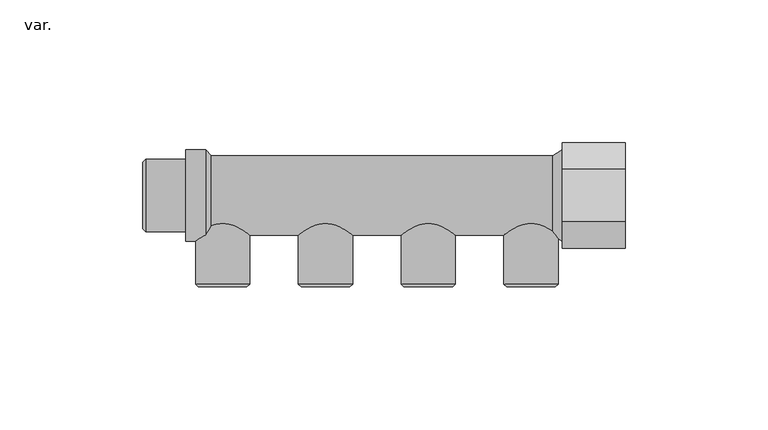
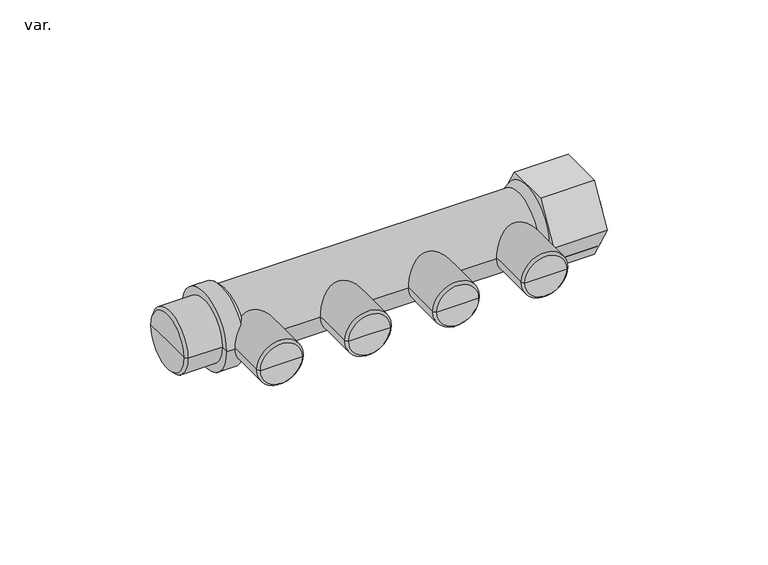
"""IFC4 building model written with IfcOpenShell, lengths in millimetres: pipe fitting geometry, AmancoWavin_ConexõesdeTubos_PEXMódulodeDistribuiçãoMetálico3_4x1_2 : var.."""

import ifcopenshell
import ifcopenshell.guid

model = None  # the IFC model being written
_history = None  # IfcOwnerHistory: only IFC2X3 demands one
_inside = {}  # id of a spatial element -> (the spatial element, [elements in it])
_under = {}  # id of a project, library or spatial element -> (it, [spatial elements below it])
_declared = {}  # id of a project -> (the project, [libraries it declares])
_typed = {}  # id of a type object -> (the type object, [elements of that type])
_made_of = {}  # id of a material, layer set ... -> (it, [elements and type objects made of it])


def new_model(schema):
    """Start an empty IFC model of exactly this schema.

    Asked for "IFC4X3", IfcOpenShell would pick the latest addendum, in which some entities
    have other attributes; the version numbers below select the first issue.
    IFC2X3 requires an IfcOwnerHistory on every rooted entity: one is made here for all.
    """
    global model, _history
    if schema == "IFC4X3":
        model = ifcopenshell.file(schema_version=(4, 3, 0, 0))
    else:
        model = ifcopenshell.file(schema=schema)
    _inside.clear()
    _under.clear()
    _declared.clear()
    _typed.clear()
    _made_of.clear()
    _history = None
    if model.schema == "IFC2X3":
        org = make("IfcOrganization", Name="unknown")
        user = make(
            "IfcPersonAndOrganization",
            ThePerson=make("IfcPerson", FamilyName="unknown"),
            TheOrganization=org,
        )
        app = make(
            "IfcApplication",
            ApplicationDeveloper=org,
            Version="unknown",
            ApplicationFullName="unknown",
            ApplicationIdentifier="unknown",
        )
        _history = make(
            "IfcOwnerHistory",
            OwningUser=user,
            OwningApplication=app,
            ChangeAction="ADDED",
            CreationDate=0,
        )
    return model


def make(cls, **values):
    """One entity of the class cls with the attributes given. An attribute that is None is left unset."""
    return model.create_entity(
        cls, **{name: value for name, value in values.items() if value is not None}
    )


def rooted(cls, **values):
    """An entity with a GlobalId (a new one), such as an element, a storey or a relation."""
    return make(cls, GlobalId=ifcopenshell.guid.new(), OwnerHistory=_history, **values)


def si_unit(unit_type, name, prefix=None):
    """IfcSIUnit, for example si_unit("LENGTHUNIT", "METRE", prefix="MILLI")."""
    return make("IfcSIUnit", UnitType=unit_type, Prefix=prefix, Name=name)


def assignment(units):
    """IfcUnitAssignment: the units of a project."""
    return None if units is None else make("IfcUnitAssignment", Units=units)


def point(xyz):
    """IfcCartesianPoint."""
    return None if xyz is None else make("IfcCartesianPoint", Coordinates=xyz)


def direction(xyz):
    """IfcDirection."""
    return None if xyz is None else make("IfcDirection", DirectionRatios=xyz)


def frame(location, z_axis=None, x_axis=None):
    """IfcAxis2Placement3D, a coordinate frame: its origin and axes. An axis left out is left unset."""
    return make(
        "IfcAxis2Placement3D",
        Location=point(location),
        Axis=direction(z_axis),
        RefDirection=direction(x_axis),
    )


def frame_2d(location, x_axis=None):
    """IfcAxis2Placement2D, a coordinate frame in the plane: its origin and x axis."""
    return make(
        "IfcAxis2Placement2D", Location=point(location), RefDirection=direction(x_axis)
    )


def origin():
    """The frame at (0, 0, 0) with its axes left unset."""
    return frame((0.0, 0.0, 0.0))


def origin_2d():
    """The frame at (0, 0) in the plane with its x axis left unset."""
    return frame_2d((0.0, 0.0))


def place(relative_to, where):
    """IfcLocalPlacement: puts the frame where relative to a parent placement (None: the world)."""
    return make(
        "IfcLocalPlacement", PlacementRelTo=relative_to, RelativePlacement=where
    )


def context(
    kind, dimensions, precision=None, world=None, true_north=None, identifier=None
):
    """IfcGeometricRepresentationContext, for example the 3D "Model" context."""
    return make(
        "IfcGeometricRepresentationContext",
        ContextIdentifier=identifier,
        ContextType=kind,
        CoordinateSpaceDimension=dimensions,
        Precision=precision,
        WorldCoordinateSystem=world,
        TrueNorth=true_north,
    )


def project(units=None, contexts=None):
    """IfcProject with its units and contexts."""
    return rooted(
        "IfcProject",
        Name="project",
        RepresentationContexts=contexts,
        UnitsInContext=assignment(units),
    )


def spatial(cls, under=None, at=None, **own):
    """A site, building, storey or space (cls), placed at a placement, below another one or the project."""
    s = rooted(cls, ObjectPlacement=at, **own)
    if under is not None:
        _under.setdefault(under.id(), (under, []))[1].append(s)
    return s


def polyline(points):
    """IfcPolyline through the points."""
    return make("IfcPolyline", Points=[point(p) for p in points])


def circle_curve(where, radius):
    """IfcCircle in the frame where."""
    return make("IfcCircle", Position=where, Radius=radius)


def trimmed(basis, trim1, trim2, sense, master):
    """IfcTrimmedCurve: the piece of a basis curve between two trims."""
    return make(
        "IfcTrimmedCurve",
        BasisCurve=basis,
        Trim1=trim1,
        Trim2=trim2,
        SenseAgreement=sense,
        MasterRepresentation=master,
    )


def segment(curve, same_sense, transition):
    """IfcCompositeCurveSegment."""
    return make(
        "IfcCompositeCurveSegment",
        Transition=transition,
        SameSense=same_sense,
        ParentCurve=curve,
    )


def composite_curve(segments, self_intersect=None):
    """IfcCompositeCurve: segments joined end to end."""
    return make("IfcCompositeCurve", Segments=segments, SelfIntersect=self_intersect)


def outline(outer, holes=None, kind="AREA"):
    """IfcArbitraryClosedProfileDef: a profile drawn as a closed curve; with holes, ...WithVoids."""
    if holes is None:
        return make("IfcArbitraryClosedProfileDef", ProfileType=kind, OuterCurve=outer)
    return make(
        "IfcArbitraryProfileDefWithVoids",
        ProfileType=kind,
        OuterCurve=outer,
        InnerCurves=holes,
    )


def extrude(swept, where, along, depth):
    """IfcExtrudedAreaSolid: the profile swept, set in the frame where, extruded along a direction by depth."""
    return make(
        "IfcExtrudedAreaSolid",
        SweptArea=swept,
        Position=where,
        ExtrudedDirection=direction(along),
        Depth=depth,
    )


def shape(context_of_items, identifier, shape_type, items):
    """IfcShapeRepresentation: the items that make up one representation, for example the "Body"."""
    return make(
        "IfcShapeRepresentation",
        ContextOfItems=context_of_items,
        RepresentationIdentifier=identifier,
        RepresentationType=shape_type,
        Items=items,
    )


def source(mapping_origin, context_of_items, identifier, shape_type, items):
    """IfcRepresentationMap: a shape defined once, which mapped items show again and again."""
    return make(
        "IfcRepresentationMap",
        MappingOrigin=mapping_origin,
        MappedRepresentation=shape(context_of_items, identifier, shape_type, items),
    )


def transform(
    local_origin,
    x_axis=None,
    y_axis=None,
    z_axis=None,
    scale=None,
    scale2=None,
    scale3=None,
    uniform=True,
):
    """IfcCartesianTransformationOperator3D, or its non-uniform kind. x_axis, y_axis, z_axis: its Axis1, 2, 3."""
    if uniform:
        return make(
            "IfcCartesianTransformationOperator3D",
            Axis1=direction(x_axis),
            Axis2=direction(y_axis),
            LocalOrigin=point(local_origin),
            Scale=scale,
            Axis3=direction(z_axis),
        )
    return make(
        "IfcCartesianTransformationOperator3DnonUniform",
        Axis1=direction(x_axis),
        Axis2=direction(y_axis),
        LocalOrigin=point(local_origin),
        Scale=scale,
        Axis3=direction(z_axis),
        Scale2=scale2,
        Scale3=scale3,
    )


def mapped(mapping_source, mapping_target):
    """IfcMappedItem: shows the shape of a source again, moved by a transform."""
    return make(
        "IfcMappedItem", MappingSource=mapping_source, MappingTarget=mapping_target
    )


def made_of(thing, what):
    """Note that an element or type object is made of a material, layer set ...; save() writes the relation."""
    if what is not None:
        _made_of.setdefault(what.id(), (what, []))[1].append(thing)
    return thing


def element(
    cls,
    number,
    at=None,
    inside=None,
    cuts=None,
    type_object=None,
    material=None,
    context=None,
    identifier="Body",
    shape_type=None,
    held_by="IfcProductDefinitionShape",
    body=None,
    shapes=None,
    **own,
):
    """One element of the class cls, such as IfcWall. Its Tag is "e" and its number.

    at: its placement. inside: the storey or other place that contains it. cuts: it is an
    opening in that element (IfcRelVoidsElement). A single representation is given by context,
    identifier, shape_type and body (its items); several are given by shapes. held_by: the class
    of the entity that holds the representations. save() writes the other relations.
    """
    e = rooted(cls, Tag="e%d" % number, ObjectPlacement=at, **own)
    if body is not None:
        shapes = [shape(context, identifier, shape_type, body)]
    if shapes is not None:
        e.Representation = make(held_by, Representations=shapes)
    if inside is not None:
        _inside.setdefault(inside.id(), (inside, []))[1].append(e)
    if cuts is not None:
        rooted(
            "IfcRelVoidsElement", RelatingBuildingElement=cuts, RelatedOpeningElement=e
        )
    if type_object is not None:
        _typed.setdefault(type_object.id(), (type_object, []))[1].append(e)
    return made_of(e, material)


def aggregate(whole, parts):
    """IfcRelAggregates: a whole, such as a stair, and the parts it consists of."""
    return rooted("IfcRelAggregates", RelatingObject=whole, RelatedObjects=parts)


def save(model, path):
    """Write the relations noted so far, then the file.

    IfcRelAggregates (storeys below a building ...), IfcRelContainedInSpatialStructure (elements
    in a storey), IfcRelDefinesByType, IfcRelAssociatesMaterial and IfcRelDeclares: one each for
    every whole, place, type object, material and project.
    """
    for whole, parts in _under.values():
        aggregate(whole, parts)
    for where, things in _inside.values():
        rooted(
            "IfcRelContainedInSpatialStructure",
            RelatedElements=things,
            RelatingStructure=where,
        )
    for kind, things in _typed.values():
        rooted("IfcRelDefinesByType", RelatedObjects=things, RelatingType=kind)
    for what, things in _made_of.values():
        rooted("IfcRelAssociatesMaterial", RelatedObjects=things, RelatingMaterial=what)
    for by, libraries in _declared.values():
        rooted("IfcRelDeclares", RelatingContext=by, RelatedDefinitions=libraries)
    model.write(path)


def plane_surface(at):
    """IfcPlane: the flat surface through the origin of the frame at, square to its z axis."""
    return make("IfcPlane", Position=at)


def cylinder_surface(at, radius):
    """IfcCylindricalSurface: all points at the distance radius from the z axis of the frame at."""
    return make("IfcCylindricalSurface", Position=at, Radius=radius)


def revolved_surface(curve, axis_point, axis_direction):
    """IfcSurfaceOfRevolution: the curve turned about the line through axis_point along axis_direction."""
    return make(
        "IfcSurfaceOfRevolution",
        SweptCurve=make("IfcArbitraryOpenProfileDef", ProfileType="CURVE", Curve=curve),
        AxisPosition=make("IfcAxis1Placement", Location=point(axis_point), Axis=direction(axis_direction)),
    )


def advanced_brep(points, edges, surfaces, faces):
    """IfcAdvancedBrep: a solid bounded by faces that lie on surfaces and meet in shared edges.

    An edge is (start, end): straight between two places in points (the first is 0);
    or (start, end, curve); or (start, end, curve, False) where it runs against its curve.
    A face is (place in surfaces, loops), or (place, loops, False) where it looks against
    its surface's normal. A loop lists edges by number (the first is 1), with a minus sign
    where the edge is run from its end to its start. The first loop is the outer one.
    """
    corners = [point(p) for p in points]
    vertices = [make("IfcVertexPoint", VertexGeometry=c) for c in corners]
    made = []
    for start, end, *more in edges:
        made.append(
            make(
                "IfcEdgeCurve",
                EdgeStart=vertices[start],
                EdgeEnd=vertices[end],
                EdgeGeometry=more[0] if more else make("IfcPolyline", Points=[corners[start], corners[end]]),
                SameSense=more[1] if len(more) > 1 else True,
            )
        )
    hull = []
    for where, loops, *sense in faces:
        bounds = []
        for j, loop in enumerate(loops):
            ring = [make("IfcOrientedEdge", EdgeElement=made[abs(k) - 1], Orientation=k > 0) for k in loop]
            bounds.append(
                make(
                    "IfcFaceOuterBound" if j == 0 else "IfcFaceBound",
                    Bound=make("IfcEdgeLoop", EdgeList=ring),
                    Orientation=True,
                )
            )
        hull.append(make("IfcAdvancedFace", Bounds=bounds, FaceSurface=surfaces[where], SameSense=sense[0] if sense else True))
    return make("IfcAdvancedBrep", Outer=make("IfcClosedShell", CfsFaces=hull))


def var_4ca37701(model_context):
    return source(origin(), model_context, "Body", "SolidModel", [
        advanced_brep(
        [(127.5, -32.0, 0.0), (144.5, -32.0, 0.0), (136.0, -32.0, 0.0), (126.5, -31.0, 0.0), (145.5, -31.0, 0.0), (126.5, 0.0, 0.0), (145.5, 0.0, 0.0), (136.0, 0.0, 0.0)],
        [
            (0, 1, circle_curve(frame((136.0, -32.0, 0.0), z_axis=(0.0, -1.0, 0.0), x_axis=(1.0, 0.0, 0.0)), 8.5)),
            (1, 2),
            (2, 0),
            (1, 0, circle_curve(frame((136.0, -32.0, 0.0), z_axis=(0.0, -1.0, 0.0), x_axis=(1.0, 0.0, 0.0)), 8.5)),
            (3, 4, circle_curve(frame((136.0, -31.0, 0.0), z_axis=(0.0, -1.0, 0.0), x_axis=(1.0, 0.0, 0.0)), 9.5)),
            (4, 1),
            (0, 3),
            (4, 3, circle_curve(frame((136.0, -31.0, 0.0), z_axis=(0.0, -1.0, 0.0), x_axis=(1.0, 0.0, 0.0)), 9.5)),
            (5, 6, circle_curve(frame((136.0, 0.0, 0.0), z_axis=(0.0, -1.0, 0.0), x_axis=(1.0, 0.0, 0.0)), 9.5)),
            (6, 4),
            (3, 5),
            (6, 5, circle_curve(frame((136.0, 0.0, 0.0), z_axis=(0.0, -1.0, 0.0), x_axis=(1.0, 0.0, 0.0)), 9.5)),
            (7, 6),
            (5, 7),
        ],
        [
            plane_surface(frame((136.0, -32.0, 0.0), z_axis=(0.0, -1.0, 0.0), x_axis=(1.0, 0.0, 0.0))),
            revolved_surface(polyline([(144.5, -32.0, 0.0), (145.5, -31.0, 0.0)]), (136.0, 0.0, 0.0), (0.0, 1.0, 0.0)),
            cylinder_surface(frame((136.0, 0.0, 0.0), z_axis=(0.0, 1.0, 0.0), x_axis=(1.0, 0.0, 0.0)), 9.5),
            plane_surface(frame((136.0, 0.0, 0.0), z_axis=(0.0, 1.0, 0.0), x_axis=(1.0, 0.0, 0.0))),
        ],
        [
            (0, [[1, 2, 3]]),
            (0, [[4, -3, -2]]),
            (1, [[5, 6, -1, 7]]),
            (1, [[8, -7, -4, -6]]),
            (2, [[9, 10, -5, 11]]),
            (2, [[12, -11, -8, -10]]),
            (3, [[13, -9, 14]]),
            (3, [[-14, -12, -13]]),
        ],
    ),
        advanced_brep(
        [(91.5, -32.0, 0.0), (108.5, -32.0, 0.0), (100.0, -32.0, 0.0), (90.5, -31.0, 0.0), (109.5, -31.0, 0.0), (90.5, 0.0, 0.0), (109.5, 0.0, 0.0), (100.0, 0.0, 0.0)],
        [
            (0, 1, circle_curve(frame((100.0, -32.0, 0.0), z_axis=(0.0, -1.0, 0.0), x_axis=(1.0, 0.0, 0.0)), 8.5)),
            (1, 2),
            (2, 0),
            (1, 0, circle_curve(frame((100.0, -32.0, 0.0), z_axis=(0.0, -1.0, 0.0), x_axis=(1.0, 0.0, 0.0)), 8.5)),
            (3, 4, circle_curve(frame((100.0, -31.0, 0.0), z_axis=(0.0, -1.0, 0.0), x_axis=(1.0, 0.0, 0.0)), 9.5)),
            (4, 1),
            (0, 3),
            (4, 3, circle_curve(frame((100.0, -31.0, 0.0), z_axis=(0.0, -1.0, 0.0), x_axis=(1.0, 0.0, 0.0)), 9.5)),
            (5, 6, circle_curve(frame((100.0, 0.0, 0.0), z_axis=(0.0, -1.0, 0.0), x_axis=(1.0, 0.0, 0.0)), 9.5)),
            (6, 4),
            (3, 5),
            (6, 5, circle_curve(frame((100.0, 0.0, 0.0), z_axis=(0.0, -1.0, 0.0), x_axis=(1.0, 0.0, 0.0)), 9.5)),
            (7, 6),
            (5, 7),
        ],
        [
            plane_surface(frame((100.0, -32.0, 0.0), z_axis=(0.0, -1.0, 0.0), x_axis=(1.0, 0.0, 0.0))),
            revolved_surface(polyline([(108.5, -32.0, 0.0), (109.5, -31.0, 0.0)]), (100.0, 0.0, 0.0), (0.0, 1.0, 0.0)),
            cylinder_surface(frame((100.0, 0.0, 0.0), z_axis=(0.0, 1.0, 0.0), x_axis=(1.0, 0.0, 0.0)), 9.5),
            plane_surface(frame((100.0, 0.0, 0.0), z_axis=(0.0, 1.0, 0.0), x_axis=(1.0, 0.0, 0.0))),
        ],
        [
            (0, [[1, 2, 3]]),
            (0, [[4, -3, -2]]),
            (1, [[5, 6, -1, 7]]),
            (1, [[8, -7, -4, -6]]),
            (2, [[9, 10, -5, 11]]),
            (2, [[12, -11, -8, -10]]),
            (3, [[13, -9, 14]]),
            (3, [[-14, -12, -13]]),
        ],
    ),
        advanced_brep(
        [(55.5, -32.0, 0.0), (72.5, -32.0, 0.0), (64.0, -32.0, 0.0), (54.5, -31.0, 0.0), (73.5, -31.0, 0.0), (54.5, 0.0, 0.0), (73.5, 0.0, 0.0), (64.0, 0.0, 0.0)],
        [
            (0, 1, circle_curve(frame((64.0, -32.0, 0.0), z_axis=(0.0, -1.0, 0.0), x_axis=(1.0, 0.0, 0.0)), 8.5)),
            (1, 2),
            (2, 0),
            (1, 0, circle_curve(frame((64.0, -32.0, 0.0), z_axis=(0.0, -1.0, 0.0), x_axis=(1.0, 0.0, 0.0)), 8.5)),
            (3, 4, circle_curve(frame((64.0, -31.0, 0.0), z_axis=(0.0, -1.0, 0.0), x_axis=(1.0, 0.0, 0.0)), 9.5)),
            (4, 1),
            (0, 3),
            (4, 3, circle_curve(frame((64.0, -31.0, 0.0), z_axis=(0.0, -1.0, 0.0), x_axis=(1.0, 0.0, 0.0)), 9.5)),
            (5, 6, circle_curve(frame((64.0, 0.0, 0.0), z_axis=(0.0, -1.0, 0.0), x_axis=(1.0, 0.0, 0.0)), 9.5)),
            (6, 4),
            (3, 5),
            (6, 5, circle_curve(frame((64.0, 0.0, 0.0), z_axis=(0.0, -1.0, 0.0), x_axis=(1.0, 0.0, 0.0)), 9.5)),
            (7, 6),
            (5, 7),
        ],
        [
            plane_surface(frame((64.0, -32.0, 0.0), z_axis=(0.0, -1.0, 0.0), x_axis=(1.0, 0.0, 0.0))),
            revolved_surface(polyline([(72.5, -32.0, 0.0), (73.5, -31.0, 0.0)]), (64.0, 0.0, 0.0), (0.0, 1.0, 0.0)),
            cylinder_surface(frame((64.0, 0.0, 0.0), z_axis=(0.0, 1.0, 0.0), x_axis=(1.0, 0.0, 0.0)), 9.5),
            plane_surface(frame((64.0, 0.0, 0.0), z_axis=(0.0, 1.0, 0.0), x_axis=(1.0, 0.0, 0.0))),
        ],
        [
            (0, [[1, 2, 3]]),
            (0, [[4, -3, -2]]),
            (1, [[5, 6, -1, 7]]),
            (1, [[8, -7, -4, -6]]),
            (2, [[9, 10, -5, 11]]),
            (2, [[12, -11, -8, -10]]),
            (3, [[13, -9, 14]]),
            (3, [[-14, -12, -13]]),
        ],
    ),
        advanced_brep(
        [(19.5, -32.0, 0.0), (36.5, -32.0, 0.0), (28.0, -32.0, 0.0), (18.5, -31.0, 0.0), (37.5, -31.0, 0.0), (18.5, 0.0, 0.0), (37.5, 0.0, 0.0), (28.0, 0.0, 0.0)],
        [
            (0, 1, circle_curve(frame((28.0, -32.0, 0.0), z_axis=(0.0, -1.0, 0.0), x_axis=(1.0, 0.0, 0.0)), 8.5)),
            (1, 2),
            (2, 0),
            (1, 0, circle_curve(frame((28.0, -32.0, 0.0), z_axis=(0.0, -1.0, 0.0), x_axis=(1.0, 0.0, 0.0)), 8.5)),
            (3, 4, circle_curve(frame((28.0, -31.0, 0.0), z_axis=(0.0, -1.0, 0.0), x_axis=(1.0, 0.0, 0.0)), 9.5)),
            (4, 1),
            (0, 3),
            (4, 3, circle_curve(frame((28.0, -31.0, 0.0), z_axis=(0.0, -1.0, 0.0), x_axis=(1.0, 0.0, 0.0)), 9.5)),
            (5, 6, circle_curve(frame((28.0, 0.0, 0.0), z_axis=(0.0, -1.0, 0.0), x_axis=(1.0, 0.0, 0.0)), 9.5)),
            (6, 4),
            (3, 5),
            (6, 5, circle_curve(frame((28.0, 0.0, 0.0), z_axis=(0.0, -1.0, 0.0), x_axis=(1.0, 0.0, 0.0)), 9.5)),
            (7, 6),
            (5, 7),
        ],
        [
            plane_surface(frame((28.0, -32.0, 0.0), z_axis=(0.0, -1.0, 0.0), x_axis=(1.0, 0.0, 0.0))),
            revolved_surface(polyline([(36.5, -32.0, 0.0), (37.5, -31.0, 0.0)]), (28.0, 0.0, 0.0), (0.0, 1.0, 0.0)),
            cylinder_surface(frame((28.0, 0.0, 0.0), z_axis=(0.0, 1.0, 0.0), x_axis=(1.0, 0.0, 0.0)), 9.5),
            plane_surface(frame((28.0, 0.0, 0.0), z_axis=(0.0, 1.0, 0.0), x_axis=(1.0, 0.0, 0.0))),
        ],
        [
            (0, [[1, 2, 3]]),
            (0, [[4, -3, -2]]),
            (1, [[5, 6, -1, 7]]),
            (1, [[8, -7, -4, -6]]),
            (2, [[9, 10, -5, 11]]),
            (2, [[12, -11, -8, -10]]),
            (3, [[13, -9, 14]]),
            (3, [[-14, -12, -13]]),
        ],
    ),
        extrude(outline(polyline([(18.4752086, 0.0), (9.2376043, -16.0), (-9.2376043, -16.0), (-18.4752086, 0.0), (-9.2376043, 16.0), (9.2376043, 16.0), (18.4752086, 0.0)]), holes=[composite_curve([segment(trimmed(circle_curve(origin_2d(), 12.7), [point((12.7, 0.0))], [point((-12.7, 0.0))], True, "CARTESIAN"), True, "CONTINUOUS"), segment(trimmed(circle_curve(origin_2d(), 12.7), [point((-12.7, 0.0))], [point((12.7, 0.0))], True, "CARTESIAN"), True, "CONTINUOUS")], self_intersect=False)]), frame((147.0, 0.0, 0.0), z_axis=(1.0, 0.0, 0.0), x_axis=(0.0, 1.0, 0.0)), (0.0, 0.0, 1.0), 22.0),
        advanced_brep(
        [(0.0, -11.7, 0.0), (0.0, 11.7, 0.0), (1.0, 12.7, 0.0), (1.0, -12.7, 0.0), (0.0, 0.0, 0.0), (15.0, 12.7, 0.0), (15.0, -12.7, 0.0), (151.0, -12.7, 0.0), (151.0, 12.7, 0.0), (151.0, 0.0, 0.0), (169.0, -12.7, 0.0), (169.0, 12.7, 0.0), (169.0, -16.0, 0.0), (169.0, 16.0, 0.0), (147.0, -16.0, 0.0), (147.0, 16.0, 0.0), (143.5358984, -14.0, 0.0), (143.5358984, 14.0, 0.0), (15.0, -16.0, 0.0), (15.0, 16.0, 0.0), (22.0, 16.0, 0.0), (22.0, -16.0, 0.0), (24.0, -14.0, 0.0), (24.0, 14.0, 0.0)],
        [
            (0, 1, circle_curve(frame((0.0, 0.0, 0.0), z_axis=(1.0, 0.0, 0.0), x_axis=(0.0, 1.0, 0.0)), 11.7)),
            (1, 2),
            (2, 3, circle_curve(frame((1.0, 0.0, 0.0), z_axis=(-1.0, 0.0, 0.0), x_axis=(0.0, 1.0, 0.0)), 12.7)),
            (3, 0),
            (1, 0, circle_curve(frame((0.0, 0.0, 0.0), z_axis=(1.0, 0.0, 0.0), x_axis=(0.0, 1.0, 0.0)), 11.7)),
            (3, 2, circle_curve(frame((1.0, 0.0, 0.0), z_axis=(-1.0, 0.0, 0.0), x_axis=(0.0, 1.0, 0.0)), 12.7)),
            (4, 1),
            (0, 4),
            (2, 5),
            (5, 6, circle_curve(frame((15.0, 0.0, 0.0), z_axis=(-1.0, 0.0, 0.0), x_axis=(0.0, 1.0, 0.0)), 12.7)),
            (6, 3),
            (6, 5, circle_curve(frame((15.0, 0.0, 0.0), z_axis=(-1.0, 0.0, 0.0), x_axis=(0.0, 1.0, 0.0)), 12.7)),
            (7, 8, circle_curve(frame((151.0, 0.0, 0.0), z_axis=(1.0, 0.0, 0.0), x_axis=(0.0, 1.0, 0.0)), 12.7)),
            (8, 9),
            (9, 7),
            (8, 7, circle_curve(frame((151.0, 0.0, 0.0), z_axis=(1.0, 0.0, 0.0), x_axis=(0.0, 1.0, 0.0)), 12.7)),
            (10, 11, circle_curve(frame((169.0, 0.0, 0.0), z_axis=(1.0, 0.0, 0.0), x_axis=(0.0, 1.0, 0.0)), 12.7)),
            (11, 8),
            (7, 10),
            (11, 10, circle_curve(frame((169.0, 0.0, 0.0), z_axis=(1.0, 0.0, 0.0), x_axis=(0.0, 1.0, 0.0)), 12.7)),
            (12, 13, circle_curve(frame((169.0, 0.0, 0.0), z_axis=(1.0, 0.0, 0.0), x_axis=(0.0, 1.0, 0.0)), 16.0)),
            (13, 11),
            (10, 12),
            (13, 12, circle_curve(frame((169.0, 0.0, 0.0), z_axis=(1.0, 0.0, 0.0), x_axis=(0.0, 1.0, 0.0)), 16.0)),
            (14, 15, circle_curve(frame((147.0, 0.0, 0.0), z_axis=(1.0, 0.0, 0.0), x_axis=(0.0, 1.0, 0.0)), 16.0)),
            (15, 13),
            (12, 14),
            (15, 14, circle_curve(frame((147.0, 0.0, 0.0), z_axis=(1.0, 0.0, 0.0), x_axis=(0.0, 1.0, 0.0)), 16.0)),
            (16, 17, circle_curve(frame((143.5358984, 0.0, 0.0), z_axis=(1.0, 0.0, 0.0), x_axis=(0.0, 1.0, 0.0)), 14.0)),
            (17, 15),
            (14, 16),
            (17, 16, circle_curve(frame((143.5358984, 0.0, 0.0), z_axis=(1.0, 0.0, 0.0), x_axis=(0.0, 1.0, 0.0)), 14.0)),
            (18, 19, circle_curve(frame((15.0, 0.0, 0.0), z_axis=(1.0, 0.0, 0.0), x_axis=(0.0, 1.0, 0.0)), 16.0)),
            (19, 20),
            (20, 21, circle_curve(frame((22.0, 0.0, 0.0), z_axis=(-1.0, 0.0, 0.0), x_axis=(0.0, 1.0, 0.0)), 16.0)),
            (21, 18),
            (19, 18, circle_curve(frame((15.0, 0.0, 0.0), z_axis=(1.0, 0.0, 0.0), x_axis=(0.0, 1.0, 0.0)), 16.0)),
            (21, 20, circle_curve(frame((22.0, 0.0, 0.0), z_axis=(-1.0, 0.0, 0.0), x_axis=(0.0, 1.0, 0.0)), 16.0)),
            (5, 19),
            (18, 6),
            (22, 23, circle_curve(frame((24.0, 0.0, 0.0), z_axis=(1.0, 0.0, 0.0), x_axis=(0.0, 1.0, 0.0)), 14.0)),
            (23, 17),
            (16, 22),
            (23, 22, circle_curve(frame((24.0, 0.0, 0.0), z_axis=(1.0, 0.0, 0.0), x_axis=(0.0, 1.0, 0.0)), 14.0)),
            (20, 23),
            (22, 21),
        ],
        [
            revolved_surface(polyline([(1.0, 12.7, 0.0), (0.0, 11.7, 0.0)]), (-2001.7466803, 0.0, 0.0), (-1.0, 0.0, 0.0)),
            plane_surface(frame((0.0, 0.0, 0.0), z_axis=(-1.0, 0.0, 0.0), x_axis=(0.0, 1.0, 0.0))),
            cylinder_surface(frame((-2001.7466803, 0.0, 0.0), z_axis=(-1.0, 0.0, 0.0), x_axis=(0.0, 1.0, 0.0)), 12.7),
            plane_surface(frame((151.0, 0.0, 0.0), z_axis=(1.0, 0.0, 0.0), x_axis=(0.0, 1.0, 0.0))),
            revolved_surface(polyline([(150.99999999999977, 12.7, 0.0), (168.99999999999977, 12.7, 0.0)]), (-2001.7466803, 0.0, 0.0), (-1.0, 0.0, 0.0)),
            plane_surface(frame((169.0, 0.0, 0.0), z_axis=(1.0, 0.0, 0.0), x_axis=(0.0, 1.0, 0.0))),
            cylinder_surface(frame((-2001.7466803, 0.0, 0.0), z_axis=(-1.0, 0.0, 0.0), x_axis=(0.0, 1.0, 0.0)), 16.0),
            revolved_surface(polyline([(147.0, 16.0, 0.0), (143.5358984, 14.0, 0.0)]), (-2001.7466803, 0.0, 0.0), (-1.0, 0.0, 0.0)),
            plane_surface(frame((15.0, 0.0, 0.0), z_axis=(-1.0, 0.0, 0.0), x_axis=(0.0, 1.0, 0.0))),
            cylinder_surface(frame((-2001.7466803, 0.0, 0.0), z_axis=(-1.0, 0.0, 0.0), x_axis=(0.0, 1.0, 0.0)), 14.0),
            revolved_surface(polyline([(24.0, 14.0, 0.0), (22.0, 16.0, 0.0)]), (-2001.7466803, 0.0, 0.0), (-1.0, 0.0, 0.0)),
        ],
        [
            (0, [[1, 2, 3, 4]]),
            (0, [[5, -4, 6, -2]]),
            (1, [[7, -1, 8]]),
            (1, [[-8, -5, -7]]),
            (2, [[-3, 9, 10, 11]]),
            (2, [[-6, -11, 12, -9]]),
            (3, [[13, 14, 15]]),
            (3, [[16, -15, -14]]),
            (4, [[17, 18, -13, 19]]),
            (4, [[20, -19, -16, -18]]),
            (5, [[21, 22, -17, 23]]),
            (5, [[24, -23, -20, -22]]),
            (6, [[25, 26, -21, 27]]),
            (6, [[28, -27, -24, -26]]),
            (7, [[29, 30, -25, 31]]),
            (7, [[32, -31, -28, -30]]),
            (6, [[33, 34, 35, 36]]),
            (6, [[37, -36, 38, -34]]),
            (8, [[-10, 39, -33, 40]]),
            (8, [[-12, -40, -37, -39]]),
            (9, [[41, 42, -29, 43]]),
            (9, [[44, -43, -32, -42]]),
            (10, [[-35, 45, -41, 46]]),
            (10, [[-38, -46, -44, -45]]),
        ],
    ),
    ])


if __name__ == "__main__":
    model = new_model("IFC4")
    model_context = context("Model", 3, world=origin())
    ifc_project = project(units=[si_unit("LENGTHUNIT", "METRE", prefix="MILLI")], contexts=[model_context])
    site = spatial("IfcSite", under=ifc_project)
    building = spatial("IfcBuilding", under=site)
    placement = place(None, origin())
    var_shape = var_4ca37701(model_context)
    element("IfcPipeFitting", 1, ObjectType="AmancoWavin_ConexõesdeTubos_PEXMódulodeDistribuiçãoMetálico3_4x1_2 : var.", at=placement, inside=building, context=model_context, shape_type="MappedRepresentation", body=[
        mapped(var_shape, transform((0.0, 0.0, 0.0), x_axis=(1.0, 0.0, 0.0), y_axis=(0.0, 1.0, 0.0), z_axis=(0.0, 0.0, 1.0))),
    ])
    save(model, "model.ifc")
